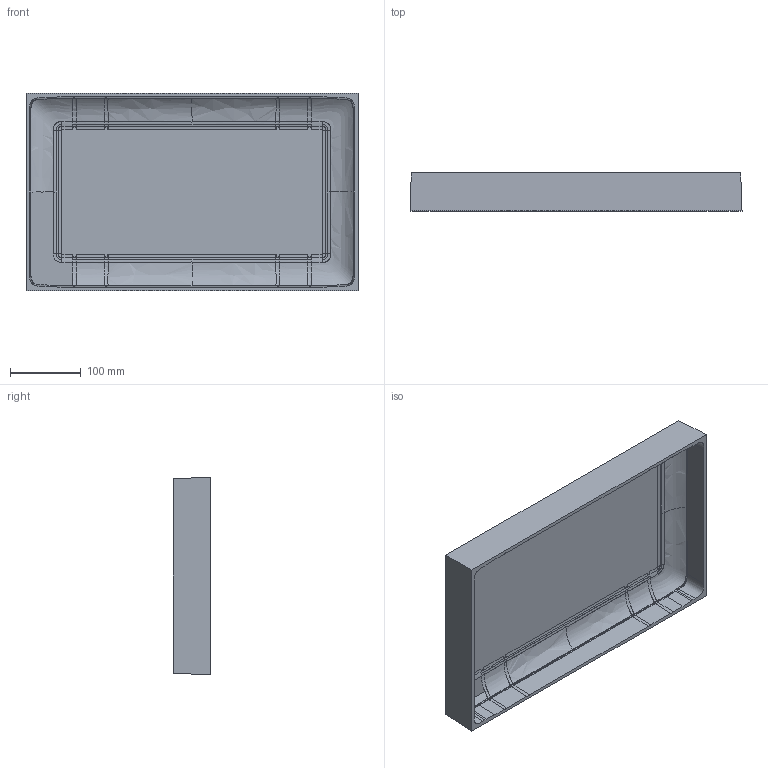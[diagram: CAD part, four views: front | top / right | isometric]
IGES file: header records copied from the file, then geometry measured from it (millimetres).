
Start section: SolidWorks IGES file using analytic representation for surfaces
Global section: file name: E:\Air Cases step files\OEM parts for 1485\1485 Top Tub.IGS; native system: SolidWorks 2016; preprocessor: SolidWorks 2016; author: mhakami; date: 160419.133733; units: inch
Bounding box: 468.01 x 53.34 x 278.29 mm (x, y, z)
Surface area: 380532.9 mm2 (no closed solid volume)
Topology: 0 solids, 0 shells, 203 faces, 2700 edges, 2700 vertices
Faces by surface type: bspline 179, revolution 24
